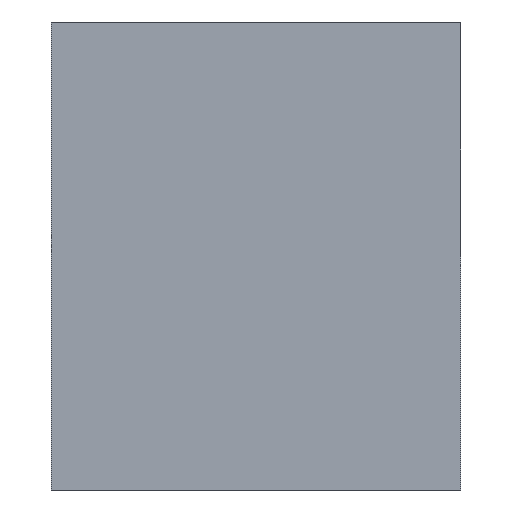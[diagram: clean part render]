
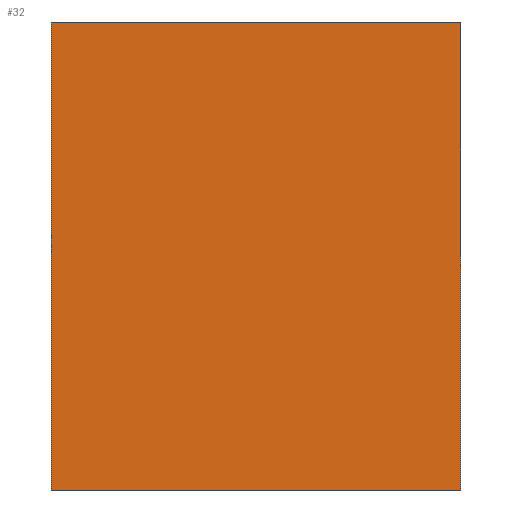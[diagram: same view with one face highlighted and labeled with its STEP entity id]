
A CAD part, left-side view. The second image highlights one B-rep face of the part: STEP entity #32.
In plain terms, the highlighted planar face has unit normal (-1, 0, 0).
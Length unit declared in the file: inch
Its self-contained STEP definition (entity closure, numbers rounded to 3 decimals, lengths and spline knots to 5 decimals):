
#2 = LINE ( 'NONE', #354, #257 ) ;
#32 = ADVANCED_FACE ( 'NONE', ( #428 ), #362, .F. ) ;
#49 = EDGE_CURVE ( 'NONE', #278, #455, #228, .T. ) ;
#97 = ORIENTED_EDGE ( 'NONE', *, *, #467, .F. ) ;
#101 = EDGE_CURVE ( 'NONE', #447, #254, #495, .T. ) ;
#117 = LINE ( 'NONE', #242, #156 ) ;
#140 = VECTOR ( 'NONE', #333, 39.37008 ) ;
#156 = VECTOR ( 'NONE', #356, 39.37008 ) ;
#160 = DIRECTION ( 'NONE',  ( 0., -1., 0. ) ) ;
#193 = CARTESIAN_POINT ( 'NONE',  ( -3.00379, 3.5, -1.36194 ) ) ;
#194 = CARTESIAN_POINT ( 'NONE',  ( -3.00379, 0., 2.63806 ) ) ;
#205 = VECTOR ( 'NONE', #160, 39.37008 ) ;
#219 = ORIENTED_EDGE ( 'NONE', *, *, #473, .T. ) ;
#228 = LINE ( 'NONE', #507, #205 ) ;
#242 = CARTESIAN_POINT ( 'NONE',  ( -3.00379, 3.5, -1.36194 ) ) ;
#254 = VERTEX_POINT ( 'NONE', #369 ) ;
#257 = VECTOR ( 'NONE', #390, 39.37008 ) ;
#269 = EDGE_LOOP ( 'NONE', ( #219, #313, #97, #371 ) ) ;
#278 = VERTEX_POINT ( 'NONE', #504 ) ;
#313 = ORIENTED_EDGE ( 'NONE', *, *, #49, .F. ) ;
#333 = DIRECTION ( 'NONE',  ( 0., -1., 0. ) ) ;
#338 = CARTESIAN_POINT ( 'NONE',  ( -3.00379, 3.5, -1.36194 ) ) ;
#354 = CARTESIAN_POINT ( 'NONE',  ( -3.00379, 0., -1.36194 ) ) ;
#356 = DIRECTION ( 'NONE',  ( 0., 0., 1. ) ) ;
#362 = PLANE ( 'NONE',  #459 ) ;
#369 = CARTESIAN_POINT ( 'NONE',  ( -3.00379, 0., -1.36194 ) ) ;
#371 = ORIENTED_EDGE ( 'NONE', *, *, #101, .T. ) ;
#390 = DIRECTION ( 'NONE',  ( 0., 0., 1. ) ) ;
#405 = CARTESIAN_POINT ( 'NONE',  ( -3.00379, 3.5, -1.36194 ) ) ;
#428 = FACE_OUTER_BOUND ( 'NONE', #269, .T. ) ;
#433 = DIRECTION ( 'NONE',  ( 0., 0., -1. ) ) ;
#447 = VERTEX_POINT ( 'NONE', #338 ) ;
#455 = VERTEX_POINT ( 'NONE', #194 ) ;
#459 = AXIS2_PLACEMENT_3D ( 'NONE', #193, #471, #433 ) ;
#467 = EDGE_CURVE ( 'NONE', #447, #278, #117, .T. ) ;
#471 = DIRECTION ( 'NONE',  ( 1., 0., 0. ) ) ;
#473 = EDGE_CURVE ( 'NONE', #254, #455, #2, .T. ) ;
#495 = LINE ( 'NONE', #405, #140 ) ;
#504 = CARTESIAN_POINT ( 'NONE',  ( -3.00379, 3.5, 2.63806 ) ) ;
#507 = CARTESIAN_POINT ( 'NONE',  ( -3.00379, 3.5, 2.63806 ) ) ;
